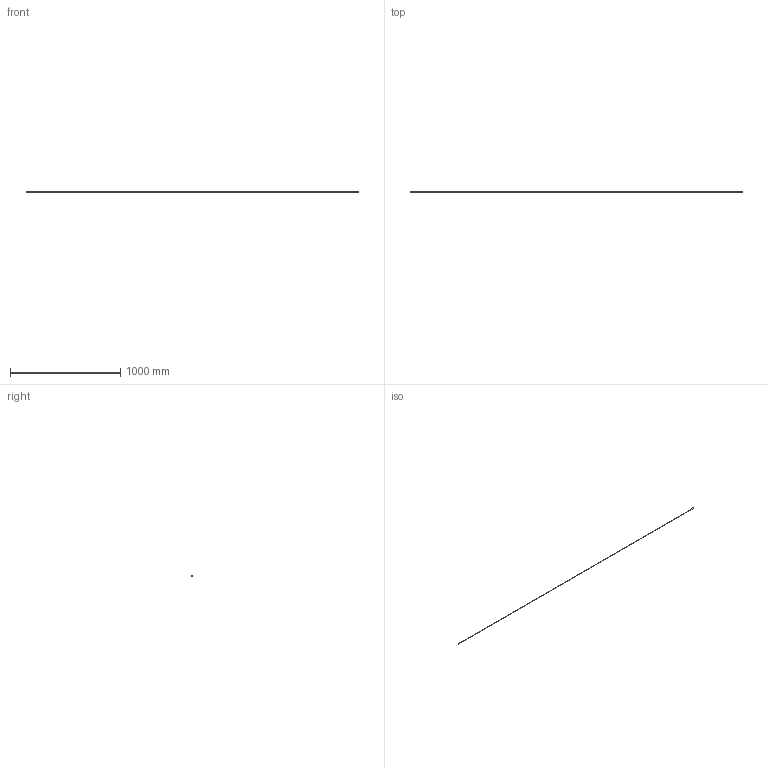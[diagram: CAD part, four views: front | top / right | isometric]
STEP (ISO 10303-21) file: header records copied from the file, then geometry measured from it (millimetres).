
FILE_DESCRIPTION (( 'STEP AP214' ), '1' );
FILE_NAME ('NTCACAPE3C90065.STEP', '2014-09-08T10:11:31', ( 'Vishay Intertechnology, Inc.' ), ( 'Vishay Intertechnology, Inc.' ), 'SwSTEP 2.0', 'SolidWorks 2014', '' );
FILE_SCHEMA (( 'AUTOMOTIVE_DESIGN' ));
Length unit declared in the file: millimetre
Products named in the file (1): NTCACAPE3C90065
Bounding box: 3008 x 9 x 9 mm (x, y, z)
Volume: 39792.7 mm3; surface area: 38454.1 mm2
Topology: 1 solids, 1 shells, 27 faces, 52 edges, 30 vertices
Faces by surface type: cylinder 12, torus 10, plane 5
Entity records: 992 total; most frequent: DIRECTION 148, CARTESIAN_POINT 110, ORIENTED_EDGE 104, AXIS2_PLACEMENT_3D 68, EDGE_CURVE 52, CIRCLE 40, EDGE_LOOP 30, VERTEX_POINT 30
